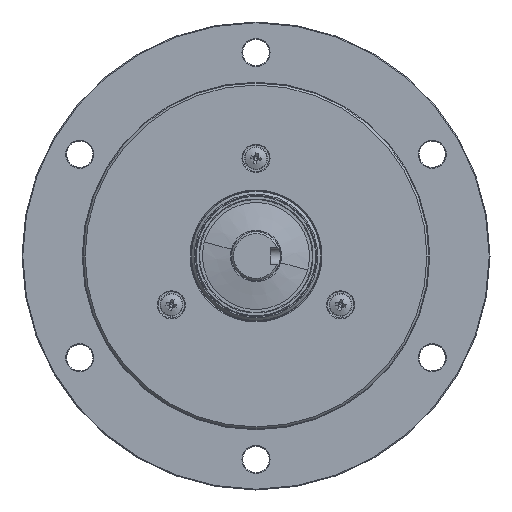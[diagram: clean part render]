
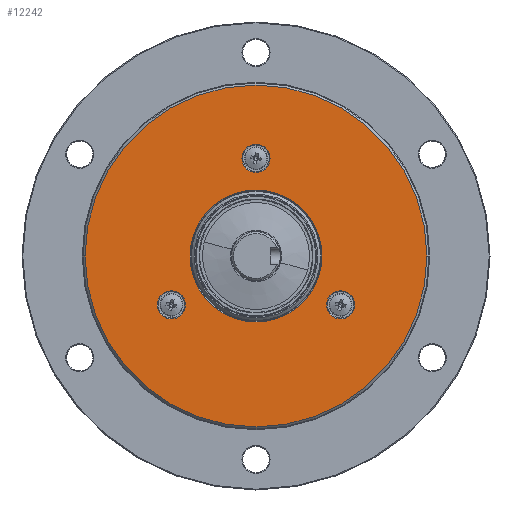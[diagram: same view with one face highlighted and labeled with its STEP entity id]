
A CAD part, front view. The second image highlights one B-rep face of the part: STEP entity #12242.
In plain terms, the highlighted planar face has unit normal (0, -1, 0).
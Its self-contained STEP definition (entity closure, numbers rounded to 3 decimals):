
#310 = EDGE_CURVE ( 'NONE', #4689, #16545, #39017, .T. ) ;
#512 = FACE_BOUND ( 'NONE', #13399, .T. ) ;
#1977 = ORIENTED_EDGE ( 'NONE', *, *, #5467, .T. ) ;
#2094 = CARTESIAN_POINT ( 'NONE',  ( -16.2, -17.5, 0. ) ) ;
#2371 = PLANE ( 'NONE',  #31466 ) ;
#3057 = AXIS2_PLACEMENT_3D ( 'NONE', #34698, #5133, #9257 ) ;
#3649 = CIRCLE ( 'NONE', #33258, 3.45 ) ;
#4191 = EDGE_CURVE ( 'NONE', #12469, #24098, #26505, .T. ) ;
#4255 = ORIENTED_EDGE ( 'NONE', *, *, #23019, .T. ) ;
#4689 = VERTEX_POINT ( 'NONE', #41779 ) ;
#5009 = CARTESIAN_POINT ( 'NONE',  ( 0., -17.5, 0. ) ) ;
#5133 = DIRECTION ( 'NONE',  ( 0., 1., 0. ) ) ;
#5467 = EDGE_CURVE ( 'NONE', #32918, #12134, #26273, .T. ) ;
#5580 = DIRECTION ( 'NONE',  ( 0., -1., 0. ) ) ;
#5796 = DIRECTION ( 'NONE',  ( 1., 0., 0. ) ) ;
#6117 = DIRECTION ( 'NONE',  ( 0., 1., 0. ) ) ;
#6466 = CIRCLE ( 'NONE', #32630, 42. ) ;
#6842 = DIRECTION ( 'NONE',  ( 1., 0., 0. ) ) ;
#7957 = AXIS2_PLACEMENT_3D ( 'NONE', #42473, #13004, #39443 ) ;
#7998 = EDGE_LOOP ( 'NONE', ( #16574, #32362 ) ) ;
#8149 = EDGE_CURVE ( 'NONE', #30855, #33636, #29183, .T. ) ;
#8948 = CIRCLE ( 'NONE', #33007, 16.2 ) ;
#9257 = DIRECTION ( 'NONE',  ( 1., 0., 0. ) ) ;
#9381 = DIRECTION ( 'NONE',  ( 1., 0., 0. ) ) ;
#9779 = DIRECTION ( 'NONE',  ( 0., 1., 0. ) ) ;
#10164 = DIRECTION ( 'NONE',  ( 1., 0., 0. ) ) ;
#10258 = ORIENTED_EDGE ( 'NONE', *, *, #12631, .T. ) ;
#10894 = ORIENTED_EDGE ( 'NONE', *, *, #10980, .T. ) ;
#10980 = EDGE_CURVE ( 'NONE', #16545, #4689, #32669, .T. ) ;
#11852 = AXIS2_PLACEMENT_3D ( 'NONE', #41551, #5580, #12097 ) ;
#11961 = CARTESIAN_POINT ( 'NONE',  ( 20.785, -17.5, -12. ) ) ;
#12097 = DIRECTION ( 'NONE',  ( 1., 0., 0. ) ) ;
#12134 = VERTEX_POINT ( 'NONE', #26365 ) ;
#12242 = ADVANCED_FACE ( 'NONE', ( #512, #39516, #33078, #16745, #29819 ), #2371, .T. ) ;
#12469 = VERTEX_POINT ( 'NONE', #2094 ) ;
#12631 = EDGE_CURVE ( 'NONE', #12134, #32918, #6466, .T. ) ;
#12703 = CARTESIAN_POINT ( 'NONE',  ( 0., -17.5, 0. ) ) ;
#13004 = DIRECTION ( 'NONE',  ( 0., 1., 0. ) ) ;
#13399 = EDGE_LOOP ( 'NONE', ( #35017, #20970 ) ) ;
#13480 = ORIENTED_EDGE ( 'NONE', *, *, #21729, .T. ) ;
#14051 = AXIS2_PLACEMENT_3D ( 'NONE', #11961, #6117, #9381 ) ;
#15692 = VERTEX_POINT ( 'NONE', #27595 ) ;
#16082 = CARTESIAN_POINT ( 'NONE',  ( 42., -17.5, 0. ) ) ;
#16499 = DIRECTION ( 'NONE',  ( 1., 0., 0. ) ) ;
#16545 = VERTEX_POINT ( 'NONE', #22394 ) ;
#16574 = ORIENTED_EDGE ( 'NONE', *, *, #18280, .T. ) ;
#16745 = FACE_BOUND ( 'NONE', #23979, .T. ) ;
#17128 = DIRECTION ( 'NONE',  ( 0., 1., 0. ) ) ;
#17506 = CIRCLE ( 'NONE', #14051, 3.45 ) ;
#18051 = EDGE_LOOP ( 'NONE', ( #13480, #4255 ) ) ;
#18070 = AXIS2_PLACEMENT_3D ( 'NONE', #19508, #9779, #38642 ) ;
#18280 = EDGE_CURVE ( 'NONE', #24098, #12469, #8948, .T. ) ;
#19176 = ORIENTED_EDGE ( 'NONE', *, *, #310, .T. ) ;
#19438 = CIRCLE ( 'NONE', #18070, 3.45 ) ;
#19508 = CARTESIAN_POINT ( 'NONE',  ( 0., -17.5, 24. ) ) ;
#20076 = CARTESIAN_POINT ( 'NONE',  ( -20.785, -17.5, -12. ) ) ;
#20456 = CARTESIAN_POINT ( 'NONE',  ( 17.335, -17.5, -12. ) ) ;
#20461 = AXIS2_PLACEMENT_3D ( 'NONE', #20076, #39650, #10164 ) ;
#20462 = DIRECTION ( 'NONE',  ( 0., 1., 0. ) ) ;
#20970 = ORIENTED_EDGE ( 'NONE', *, *, #37172, .T. ) ;
#21662 = DIRECTION ( 'NONE',  ( 1., 0., 0. ) ) ;
#21729 = EDGE_CURVE ( 'NONE', #28517, #15692, #19438, .T. ) ;
#22394 = CARTESIAN_POINT ( 'NONE',  ( -17.335, -17.5, -12. ) ) ;
#23019 = EDGE_CURVE ( 'NONE', #15692, #28517, #3649, .T. ) ;
#23536 = CARTESIAN_POINT ( 'NONE',  ( -20.785, -17.5, -12. ) ) ;
#23687 = DIRECTION ( 'NONE',  ( 1., 0., 0. ) ) ;
#23711 = AXIS2_PLACEMENT_3D ( 'NONE', #23536, #17128, #16499 ) ;
#23979 = EDGE_LOOP ( 'NONE', ( #10894, #19176 ) ) ;
#24098 = VERTEX_POINT ( 'NONE', #27483 ) ;
#25610 = CARTESIAN_POINT ( 'NONE',  ( 0., -17.5, 16. ) ) ;
#26273 = CIRCLE ( 'NONE', #11852, 42. ) ;
#26365 = CARTESIAN_POINT ( 'NONE',  ( -42., -17.5, 0. ) ) ;
#26505 = CIRCLE ( 'NONE', #7957, 16.2 ) ;
#26775 = EDGE_LOOP ( 'NONE', ( #10258, #1977 ) ) ;
#27483 = CARTESIAN_POINT ( 'NONE',  ( 16.2, -17.5, 0. ) ) ;
#27595 = CARTESIAN_POINT ( 'NONE',  ( -3.45, -17.5, 24. ) ) ;
#28517 = VERTEX_POINT ( 'NONE', #29130 ) ;
#28906 = CARTESIAN_POINT ( 'NONE',  ( 24.235, -17.5, -12. ) ) ;
#29130 = CARTESIAN_POINT ( 'NONE',  ( 3.45, -17.5, 24. ) ) ;
#29183 = CIRCLE ( 'NONE', #3057, 3.45 ) ;
#29819 = FACE_OUTER_BOUND ( 'NONE', #26775, .T. ) ;
#30855 = VERTEX_POINT ( 'NONE', #28906 ) ;
#31466 = AXIS2_PLACEMENT_3D ( 'NONE', #25610, #35357, #5796 ) ;
#32362 = ORIENTED_EDGE ( 'NONE', *, *, #4191, .T. ) ;
#32630 = AXIS2_PLACEMENT_3D ( 'NONE', #12703, #36385, #6842 ) ;
#32669 = CIRCLE ( 'NONE', #23711, 3.45 ) ;
#32918 = VERTEX_POINT ( 'NONE', #16082 ) ;
#33007 = AXIS2_PLACEMENT_3D ( 'NONE', #5009, #39005, #21662 ) ;
#33078 = FACE_BOUND ( 'NONE', #7998, .T. ) ;
#33258 = AXIS2_PLACEMENT_3D ( 'NONE', #33612, #20462, #23687 ) ;
#33612 = CARTESIAN_POINT ( 'NONE',  ( 0., -17.5, 24. ) ) ;
#33636 = VERTEX_POINT ( 'NONE', #20456 ) ;
#34698 = CARTESIAN_POINT ( 'NONE',  ( 20.785, -17.5, -12. ) ) ;
#35017 = ORIENTED_EDGE ( 'NONE', *, *, #8149, .T. ) ;
#35357 = DIRECTION ( 'NONE',  ( 0., -1., 0. ) ) ;
#36385 = DIRECTION ( 'NONE',  ( 0., -1., 0. ) ) ;
#37172 = EDGE_CURVE ( 'NONE', #33636, #30855, #17506, .T. ) ;
#38642 = DIRECTION ( 'NONE',  ( 1., 0., 0. ) ) ;
#39005 = DIRECTION ( 'NONE',  ( 0., 1., 0. ) ) ;
#39017 = CIRCLE ( 'NONE', #20461, 3.45 ) ;
#39443 = DIRECTION ( 'NONE',  ( 1., 0., 0. ) ) ;
#39516 = FACE_BOUND ( 'NONE', #18051, .T. ) ;
#39650 = DIRECTION ( 'NONE',  ( 0., 1., 0. ) ) ;
#41551 = CARTESIAN_POINT ( 'NONE',  ( 0., -17.5, 0. ) ) ;
#41779 = CARTESIAN_POINT ( 'NONE',  ( -24.235, -17.5, -12. ) ) ;
#42473 = CARTESIAN_POINT ( 'NONE',  ( 0., -17.5, 0. ) ) ;
